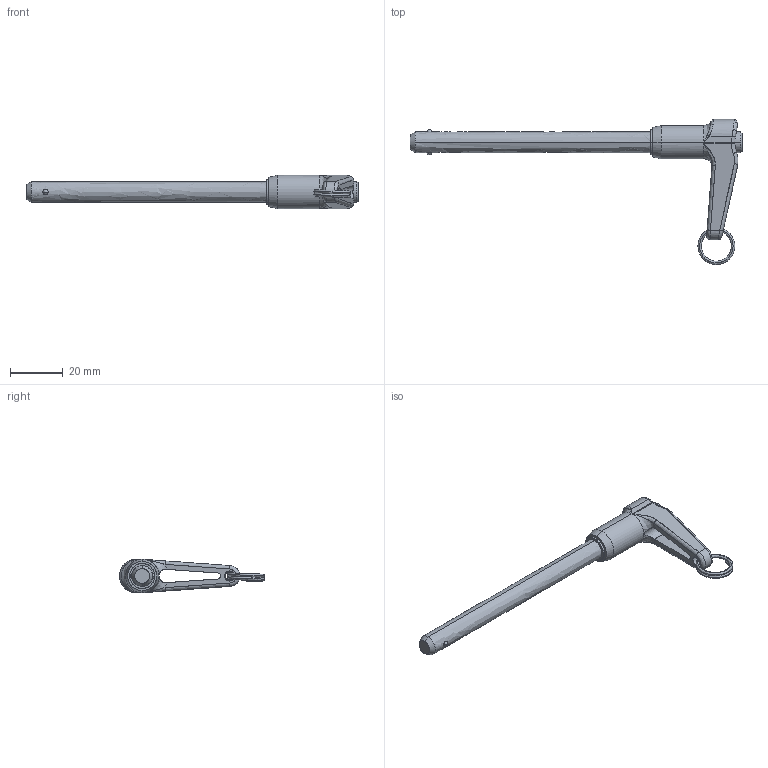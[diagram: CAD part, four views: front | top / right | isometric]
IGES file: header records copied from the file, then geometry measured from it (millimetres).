
Start section: SolidWorks IGES file using analytic representation for surfaces
Global section: file name: C:\Documents and Settings\IANO\My Documents\Wix and Auto CAD Work\CAD Models\Parametric Models\Wix Models\30000\33620_v2\33620_v2_20160606_IGES\33620.C033.igs; native system: SolidWorks 2009; preprocessor: SolidWorks 2009; author: IANO; date: 160615.125930; units: inch
Bounding box: 126.07 x 55.08 x 12.7 mm (x, y, z)
Surface area: 7030.8 mm2 (no closed solid volume)
Topology: 0 solids, 0 shells, 85 faces, 1226 edges, 1224 vertices
Faces by surface type: bspline 55, revolution 30
